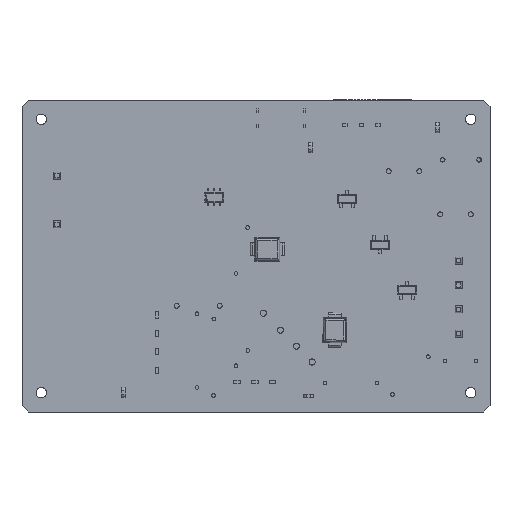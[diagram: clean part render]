
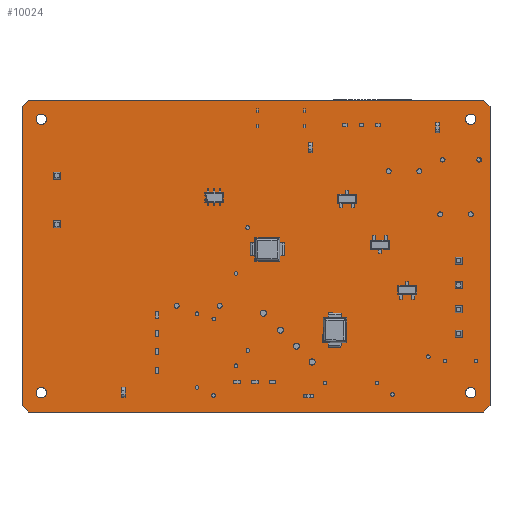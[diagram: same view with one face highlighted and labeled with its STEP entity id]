
A CAD part, front view. The second image highlights one B-rep face of the part: STEP entity #10024.
In plain terms, the highlighted planar face has unit normal (0, -1, 0).
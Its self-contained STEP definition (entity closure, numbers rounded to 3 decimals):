
#6752=CIRCLE('',#34349,0.85);
#6753=CIRCLE('',#34350,0.85);
#6754=CIRCLE('',#34351,0.85);
#6755=CIRCLE('',#34352,0.85);
#6756=CIRCLE('',#34353,0.85);
#6757=CIRCLE('',#34354,0.85);
#6758=CIRCLE('',#34355,0.85);
#6759=CIRCLE('',#34356,0.85);
#10024=ADVANCED_FACE('',(#10878,#10879,#10880,#10881,#10882),#10745,.F.);
#10745=PLANE('',#34357);
#10878=FACE_BOUND('',#12618,.T.);
#10879=FACE_BOUND('',#12619,.T.);
#10880=FACE_BOUND('',#12620,.T.);
#10881=FACE_BOUND('',#12621,.T.);
#10882=FACE_BOUND('',#12622,.T.);
#12618=EDGE_LOOP('',(#20485,#20486,#20487,#20488,#20489,#20490,#20491,#20492));
#12619=EDGE_LOOP('',(#20493,#20494));
#12620=EDGE_LOOP('',(#20495,#20496));
#12621=EDGE_LOOP('',(#20497,#20498));
#12622=EDGE_LOOP('',(#20499,#20500));
#20485=ORIENTED_EDGE('',*,*,#26836,.F.);
#20486=ORIENTED_EDGE('',*,*,#26834,.F.);
#20487=ORIENTED_EDGE('',*,*,#26832,.F.);
#20488=ORIENTED_EDGE('',*,*,#26830,.F.);
#20489=ORIENTED_EDGE('',*,*,#26828,.F.);
#20490=ORIENTED_EDGE('',*,*,#26826,.F.);
#20491=ORIENTED_EDGE('',*,*,#26824,.F.);
#20492=ORIENTED_EDGE('',*,*,#26822,.F.);
#20493=ORIENTED_EDGE('',*,*,#26837,.F.);
#20494=ORIENTED_EDGE('',*,*,#26838,.F.);
#20495=ORIENTED_EDGE('',*,*,#26839,.F.);
#20496=ORIENTED_EDGE('',*,*,#26840,.F.);
#20497=ORIENTED_EDGE('',*,*,#26841,.F.);
#20498=ORIENTED_EDGE('',*,*,#26842,.F.);
#20499=ORIENTED_EDGE('',*,*,#26843,.F.);
#20500=ORIENTED_EDGE('',*,*,#26844,.F.);
#22886=VERTEX_POINT('',#59625);
#22887=VERTEX_POINT('',#59627);
#22888=VERTEX_POINT('',#59631);
#22889=VERTEX_POINT('',#59635);
#22890=VERTEX_POINT('',#59639);
#22891=VERTEX_POINT('',#59643);
#22892=VERTEX_POINT('',#59647);
#22893=VERTEX_POINT('',#59651);
#22894=VERTEX_POINT('',#59657);
#22895=VERTEX_POINT('',#59658);
#22896=VERTEX_POINT('',#59661);
#22897=VERTEX_POINT('',#59662);
#22898=VERTEX_POINT('',#59665);
#22899=VERTEX_POINT('',#59666);
#22900=VERTEX_POINT('',#59669);
#22901=VERTEX_POINT('',#59670);
#26822=EDGE_CURVE('',#22886,#22887,#29034,.T.);
#26824=EDGE_CURVE('',#22887,#22888,#29036,.T.);
#26826=EDGE_CURVE('',#22888,#22889,#29038,.T.);
#26828=EDGE_CURVE('',#22889,#22890,#29040,.T.);
#26830=EDGE_CURVE('',#22890,#22891,#29042,.T.);
#26832=EDGE_CURVE('',#22891,#22892,#29044,.T.);
#26834=EDGE_CURVE('',#22892,#22893,#29046,.T.);
#26836=EDGE_CURVE('',#22893,#22886,#29048,.T.);
#26837=EDGE_CURVE('',#22894,#22895,#6752,.T.);
#26838=EDGE_CURVE('',#22895,#22894,#6753,.T.);
#26839=EDGE_CURVE('',#22896,#22897,#6754,.T.);
#26840=EDGE_CURVE('',#22897,#22896,#6755,.T.);
#26841=EDGE_CURVE('',#22898,#22899,#6756,.T.);
#26842=EDGE_CURVE('',#22899,#22898,#6757,.T.);
#26843=EDGE_CURVE('',#22900,#22901,#6758,.T.);
#26844=EDGE_CURVE('',#22901,#22900,#6759,.T.);
#29034=LINE('',#59626,#31238);
#29036=LINE('',#59630,#31240);
#29038=LINE('',#59634,#31242);
#29040=LINE('',#59638,#31244);
#29042=LINE('',#59642,#31246);
#29044=LINE('',#59646,#31248);
#29046=LINE('',#59650,#31250);
#29048=LINE('',#59654,#31252);
#31238=VECTOR('',#42752,1.);
#31240=VECTOR('',#42756,1.);
#31242=VECTOR('',#42760,1.);
#31244=VECTOR('',#42764,1.);
#31246=VECTOR('',#42768,1.);
#31248=VECTOR('',#42772,1.);
#31250=VECTOR('',#42776,1.);
#31252=VECTOR('',#42780,1.);
#34349=AXIS2_PLACEMENT_3D('',#59656,#42783,#42784);
#34350=AXIS2_PLACEMENT_3D('',#59659,#42785,#42786);
#34351=AXIS2_PLACEMENT_3D('',#59660,#42787,#42788);
#34352=AXIS2_PLACEMENT_3D('',#59663,#42789,#42790);
#34353=AXIS2_PLACEMENT_3D('',#59664,#42791,#42792);
#34354=AXIS2_PLACEMENT_3D('',#59667,#42793,#42794);
#34355=AXIS2_PLACEMENT_3D('',#59668,#42795,#42796);
#34356=AXIS2_PLACEMENT_3D('',#59671,#42797,#42798);
#34357=AXIS2_PLACEMENT_3D('',#59672,#42799,#42800);
#42752=DIRECTION('',(-0.707,0.,-0.707));
#42756=DIRECTION('',(-1.,0.,0.));
#42760=DIRECTION('',(-0.707,0.,0.707));
#42764=DIRECTION('',(0.,0.,1.));
#42768=DIRECTION('',(0.707,0.,0.707));
#42772=DIRECTION('',(1.,0.,0.));
#42776=DIRECTION('',(0.707,0.,-0.707));
#42780=DIRECTION('',(0.,0.,-1.));
#42783=DIRECTION('',(0.,-1.,0.));
#42784=DIRECTION('',(1.,0.,0.));
#42785=DIRECTION('',(0.,-1.,0.));
#42786=DIRECTION('',(-1.,0.,0.));
#42787=DIRECTION('',(0.,-1.,0.));
#42788=DIRECTION('',(1.,0.,0.));
#42789=DIRECTION('',(0.,-1.,0.));
#42790=DIRECTION('',(-1.,0.,0.));
#42791=DIRECTION('',(0.,-1.,0.));
#42792=DIRECTION('',(1.,0.,0.));
#42793=DIRECTION('',(0.,-1.,0.));
#42794=DIRECTION('',(-1.,0.,0.));
#42795=DIRECTION('',(0.,-1.,0.));
#42796=DIRECTION('',(1.,0.,0.));
#42797=DIRECTION('',(0.,-1.,0.));
#42798=DIRECTION('',(-1.,0.,0.));
#42799=DIRECTION('',(0.,1.,0.));
#42800=DIRECTION('',(-1.,0.,0.));
#59625=CARTESIAN_POINT('',(98.574,-1.6,-13.495));
#59626=CARTESIAN_POINT('',(98.574,-1.6,-13.495));
#59627=CARTESIAN_POINT('',(97.574,-1.6,-14.495));
#59630=CARTESIAN_POINT('',(97.574,-1.6,-14.495));
#59631=CARTESIAN_POINT('',(23.374,-1.6,-14.495));
#59634=CARTESIAN_POINT('',(23.374,-1.6,-14.495));
#59635=CARTESIAN_POINT('',(22.374,-1.6,-13.495));
#59638=CARTESIAN_POINT('',(22.374,-1.6,-13.495));
#59639=CARTESIAN_POINT('',(22.374,-1.6,35.305));
#59642=CARTESIAN_POINT('',(22.374,-1.6,35.305));
#59643=CARTESIAN_POINT('',(23.374,-1.6,36.305));
#59646=CARTESIAN_POINT('',(23.374,-1.6,36.305));
#59647=CARTESIAN_POINT('',(97.574,-1.6,36.305));
#59650=CARTESIAN_POINT('',(97.574,-1.6,36.305));
#59651=CARTESIAN_POINT('',(98.574,-1.6,35.305));
#59654=CARTESIAN_POINT('',(98.574,-1.6,35.305));
#59656=CARTESIAN_POINT('',(25.524,-1.6,-11.345));
#59657=CARTESIAN_POINT('',(26.374,-1.6,-11.345));
#59658=CARTESIAN_POINT('',(24.674,-1.6,-11.345));
#59659=CARTESIAN_POINT('',(25.524,-1.6,-11.345));
#59660=CARTESIAN_POINT('',(25.524,-1.6,33.155));
#59661=CARTESIAN_POINT('',(26.374,-1.6,33.155));
#59662=CARTESIAN_POINT('',(24.674,-1.6,33.155));
#59663=CARTESIAN_POINT('',(25.524,-1.6,33.155));
#59664=CARTESIAN_POINT('',(95.424,-1.6,33.155));
#59665=CARTESIAN_POINT('',(96.274,-1.6,33.155));
#59666=CARTESIAN_POINT('',(94.574,-1.6,33.155));
#59667=CARTESIAN_POINT('',(95.424,-1.6,33.155));
#59668=CARTESIAN_POINT('',(95.424,-1.6,-11.345));
#59669=CARTESIAN_POINT('',(96.274,-1.6,-11.345));
#59670=CARTESIAN_POINT('',(94.574,-1.6,-11.345));
#59671=CARTESIAN_POINT('',(95.424,-1.6,-11.345));
#59672=CARTESIAN_POINT('',(0.,-1.6,0.));
